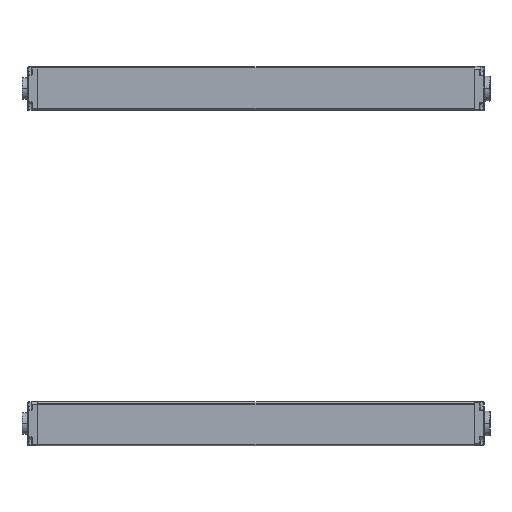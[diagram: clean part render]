
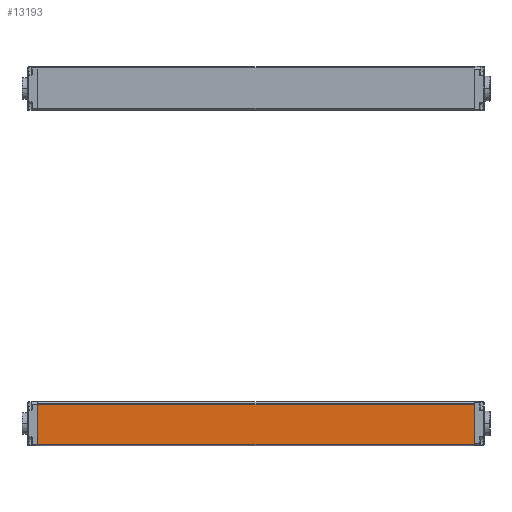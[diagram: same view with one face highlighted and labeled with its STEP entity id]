
A CAD part, left-side view. The second image highlights one B-rep face of the part: STEP entity #13193.
In plain terms, the highlighted planar face has unit normal (-1, 0, -0.009) as drawn and (1, 0, 0) by its records, which use the part's own axes.
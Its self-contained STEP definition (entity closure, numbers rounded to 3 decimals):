
#518 = CARTESIAN_POINT ( 'NONE',  ( 15., 0., 10.9 ) ) ;
#1241 = VERTEX_POINT ( 'NONE', #9262 ) ;
#1377 = LINE ( 'NONE', #6945, #11884 ) ;
#2293 = LINE ( 'NONE', #7862, #5092 ) ;
#2690 = CARTESIAN_POINT ( 'NONE',  ( 15., 300., -16.693 ) ) ;
#3043 = LINE ( 'NONE', #8614, #10700 ) ;
#3303 = DIRECTION ( 'NONE',  ( 0., 0., 1. ) ) ;
#3382 = AXIS2_PLACEMENT_3D ( 'NONE', #10240, #15773, #3303 ) ;
#4027 = VECTOR ( 'NONE', #8252, 1000. ) ;
#4683 = PLANE ( 'NONE',  #3382 ) ;
#4879 = VERTEX_POINT ( 'NONE', #518 ) ;
#5092 = VECTOR ( 'NONE', #13400, 1000. ) ;
#5894 = ORIENTED_EDGE ( 'NONE', *, *, #7834, .F. ) ;
#6457 = EDGE_CURVE ( 'NONE', #4879, #1241, #1377, .T. ) ;
#6628 = CARTESIAN_POINT ( 'NONE',  ( 15., 300., 10.9 ) ) ;
#6945 = CARTESIAN_POINT ( 'NONE',  ( 15., 0., -16.9 ) ) ;
#7390 = ORIENTED_EDGE ( 'NONE', *, *, #6457, .T. ) ;
#7834 = EDGE_CURVE ( 'NONE', #8985, #15163, #3043, .T. ) ;
#7862 = CARTESIAN_POINT ( 'NONE',  ( 15., 300., 10.9 ) ) ;
#8252 = DIRECTION ( 'NONE',  ( 0., 1., 0. ) ) ;
#8614 = CARTESIAN_POINT ( 'NONE',  ( 15., 300., -16.9 ) ) ;
#8985 = VERTEX_POINT ( 'NONE', #6628 ) ;
#9262 = CARTESIAN_POINT ( 'NONE',  ( 15., 0., -16.693 ) ) ;
#10240 = CARTESIAN_POINT ( 'NONE',  ( 15., 300., -16.9 ) ) ;
#10700 = VECTOR ( 'NONE', #14159, 1000. ) ;
#11012 = CARTESIAN_POINT ( 'NONE',  ( 15., 300., -16.693 ) ) ;
#11884 = VECTOR ( 'NONE', #12496, 1000. ) ;
#11916 = EDGE_LOOP ( 'NONE', ( #7390, #12854, #5894, #16509 ) ) ;
#12496 = DIRECTION ( 'NONE',  ( 0., 0., -1. ) ) ;
#12854 = ORIENTED_EDGE ( 'NONE', *, *, #17858, .T. ) ;
#13193 = ADVANCED_FACE ( 'NONE', ( #17131 ), #4683, .F. ) ;
#13400 = DIRECTION ( 'NONE',  ( 0., -1., 0. ) ) ;
#14159 = DIRECTION ( 'NONE',  ( 0., 0., -1. ) ) ;
#15160 = LINE ( 'NONE', #2690, #4027 ) ;
#15163 = VERTEX_POINT ( 'NONE', #11012 ) ;
#15773 = DIRECTION ( 'NONE',  ( -1., 0., 0. ) ) ;
#15839 = EDGE_CURVE ( 'NONE', #8985, #4879, #2293, .T. ) ;
#16509 = ORIENTED_EDGE ( 'NONE', *, *, #15839, .T. ) ;
#17131 = FACE_OUTER_BOUND ( 'NONE', #11916, .T. ) ;
#17858 = EDGE_CURVE ( 'NONE', #1241, #15163, #15160, .T. ) ;
